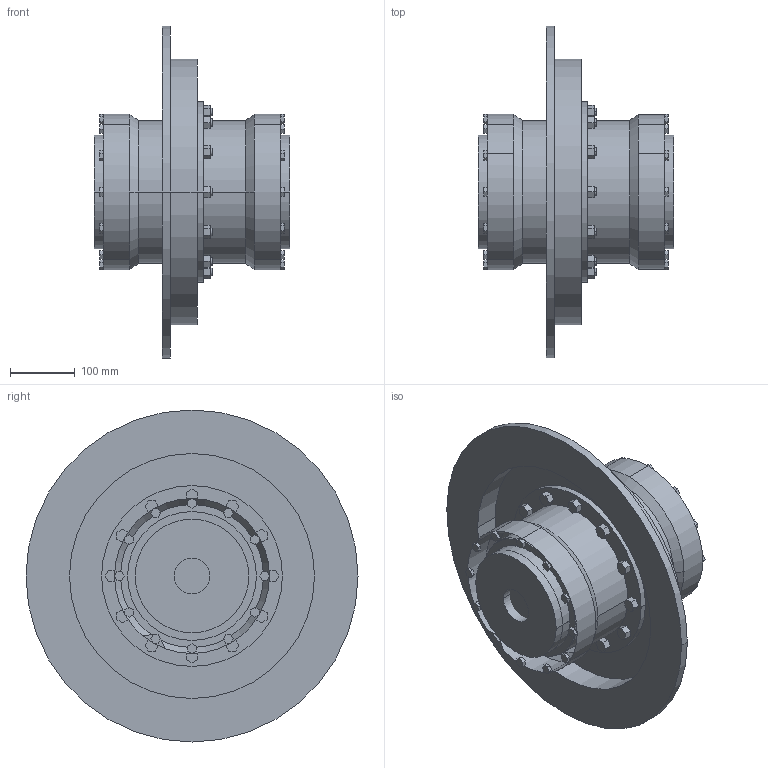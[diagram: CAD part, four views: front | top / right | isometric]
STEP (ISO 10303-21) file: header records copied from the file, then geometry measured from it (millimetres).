
FILE_DESCRIPTION((''),'2;1');
FILE_NAME('A19101400-0_ASM','2018-11-08T',('AB_Roschiwal'),('RENK AG'),'PRO/ENGINEER BY PARAMETRIC TECHNOLOGY CORPORATION, 2015440','PRO/ENGINEER BY PARAMETRIC TECHNOLOGY CORPORATION, 2015440','');
FILE_SCHEMA(('CONFIG_CONTROL_DESIGN'));
Length unit declared in the file: millimetre
Products named in the file (4): SBKD110_GEHAEUSE; SBKD110_NABE; SBKD110_BREMSSCHEIBE; A19101400-0_ASM
Assembly tree (4 placements, depth 2):
  A19101400-0_ASM
    SBKD110_GEHAEUSE
    SBKD110_NABE  x2
    SBKD110_BREMSSCHEIBE
Bounding box: 303 x 514 x 514 mm (x, y, z)
Volume: 13191553.8 mm3; surface area: 1266655.3 mm2
Topology: 4 solids, 4 shells, 470 faces, 1272 edges, 812 vertices
Faces by surface type: plane 370, cylinder 96, cone 4
Entity records: 13708 total; most frequent: CARTESIAN_POINT 2366, ORIENTED_EDGE 2304, DIRECTION 2280, EDGE_CURVE 1152, VECTOR 956, LINE 956, VERTEX_POINT 748, AXIS2_PLACEMENT_3D 662
